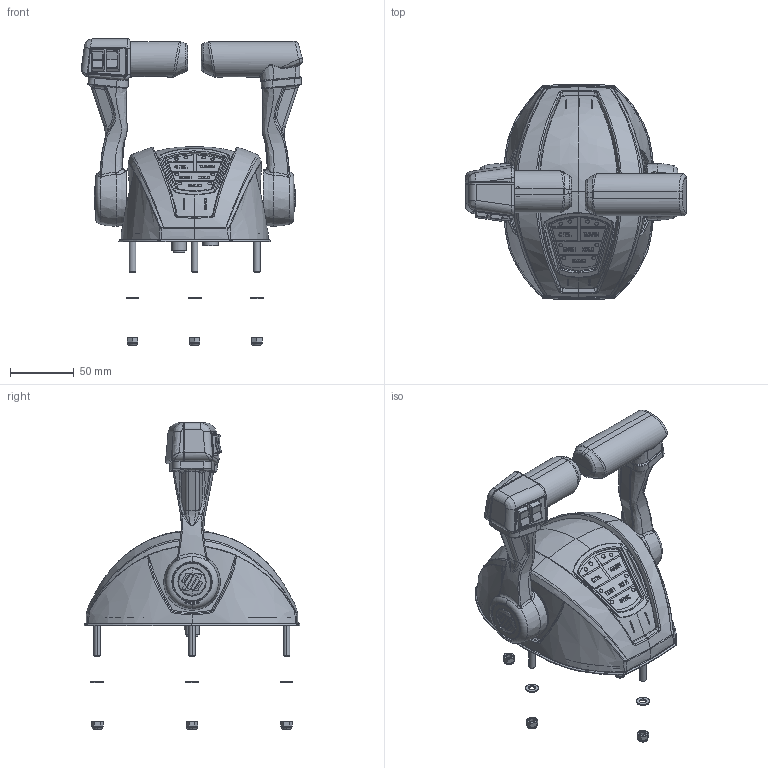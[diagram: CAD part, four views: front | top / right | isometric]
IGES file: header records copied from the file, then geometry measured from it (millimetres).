
Global section: file name: No Iges File Name specified; native system: Autodesk Inventor 2011; preprocessor: AutoDesk Inventor Iges Exporter R2011; author: Trivella; date: 20120413.111157; units: millimetre
Bounding box: 173.09 x 168.78 x 239.3 mm (x, y, z)
Volume: 392751.4 mm3; surface area: 276600.3 mm2
Topology: 65 solids, 66 shells, 3644 faces, 9332 edges, 5805 vertices
Faces by surface type: plane 1228, bspline 1195, revolution 461, cylinder 348, cone 234, torus 142, sphere 36
